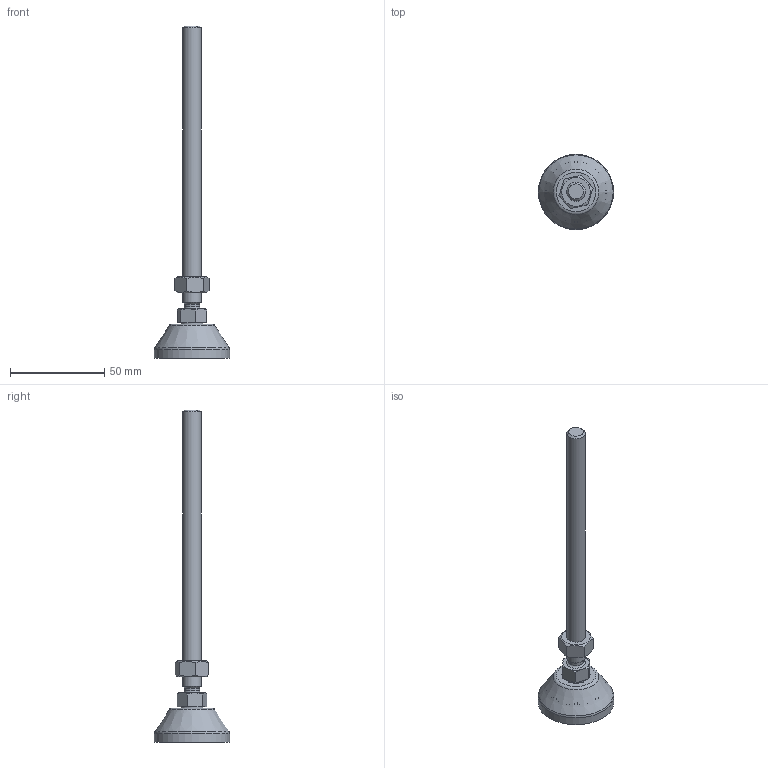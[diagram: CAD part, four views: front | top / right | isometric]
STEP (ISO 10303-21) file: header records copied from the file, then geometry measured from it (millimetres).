
FILE_DESCRIPTION(('STEP AP203'), '1');
FILE_NAME('栖闉罻', '', ('UNSPECIFIED'), ('UNSPECIFIED'), 'C3D Converter', 'C3D Toolkit', '');
FILE_SCHEMA(('CONFIG_CONTROL_DESIGN'));
Length unit declared in the file: millimetre
Products named in the file (4): A00015.1040; A00020.110150
Assembly tree (3 placements, depth 3):
  (unnamed)
    A00015.1040
    A00020.110150
      (unnamed)
Bounding box: 40 x 40 x 176.1 mm (x, y, z)
Volume: 25787.4 mm3; surface area: 13014.7 mm2
Topology: 3 solids, 3 shells, 142 faces, 392 edges, 260 vertices
Faces by surface type: plane 78, cylinder 26, torus 21, cone 15, sphere 2
Full cylindrical faces by diameter (mm): 8 x1, 8.376 x1, 10 x1, 12 x1, 14.3 x1, 15 x2, 15.5 x1, 32 x1, 40 x1
Entity records: 8123 total; most frequent: CARTESIAN_POINT 3270, ORIENTED_EDGE 730, DIRECTION 728, EDGE_CURVE 365, AXIS2_PLACEMENT_3D 291, VERTEX_POINT 259, EDGE_LOOP 174, FACE_BOUND 151
